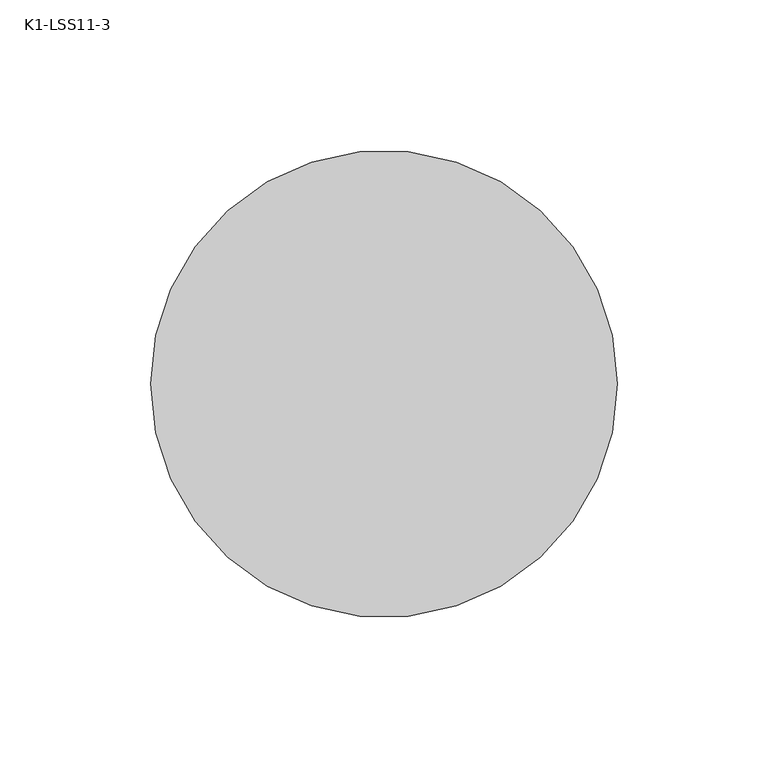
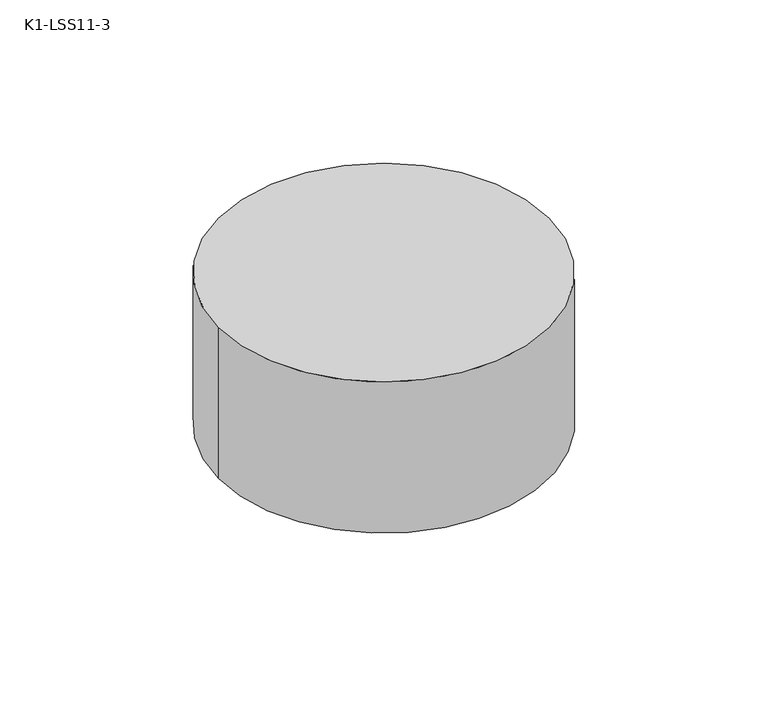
"""IFC4 building model written with IfcOpenShell, lengths in millimetres: light fixture geometry, 20501_K1-SS11_非常用照明器具_直付形 : K1-LSS11-3."""

import ifcopenshell
import ifcopenshell.guid

model = None  # the IFC model being written
_history = None  # IfcOwnerHistory: only IFC2X3 demands one
_inside = {}  # id of a spatial element -> (the spatial element, [elements in it])
_under = {}  # id of a project, library or spatial element -> (it, [spatial elements below it])
_declared = {}  # id of a project -> (the project, [libraries it declares])
_typed = {}  # id of a type object -> (the type object, [elements of that type])
_made_of = {}  # id of a material, layer set ... -> (it, [elements and type objects made of it])


def new_model(schema):
    """Start an empty IFC model of exactly this schema.

    Asked for "IFC4X3", IfcOpenShell would pick the latest addendum, in which some entities
    have other attributes; the version numbers below select the first issue.
    IFC2X3 requires an IfcOwnerHistory on every rooted entity: one is made here for all.
    """
    global model, _history
    if schema == "IFC4X3":
        model = ifcopenshell.file(schema_version=(4, 3, 0, 0))
    else:
        model = ifcopenshell.file(schema=schema)
    _inside.clear()
    _under.clear()
    _declared.clear()
    _typed.clear()
    _made_of.clear()
    _history = None
    if model.schema == "IFC2X3":
        org = make("IfcOrganization", Name="unknown")
        user = make(
            "IfcPersonAndOrganization",
            ThePerson=make("IfcPerson", FamilyName="unknown"),
            TheOrganization=org,
        )
        app = make(
            "IfcApplication",
            ApplicationDeveloper=org,
            Version="unknown",
            ApplicationFullName="unknown",
            ApplicationIdentifier="unknown",
        )
        _history = make(
            "IfcOwnerHistory",
            OwningUser=user,
            OwningApplication=app,
            ChangeAction="ADDED",
            CreationDate=0,
        )
    return model


def make(cls, **values):
    """One entity of the class cls with the attributes given. An attribute that is None is left unset."""
    return model.create_entity(
        cls, **{name: value for name, value in values.items() if value is not None}
    )


def rooted(cls, **values):
    """An entity with a GlobalId (a new one), such as an element, a storey or a relation."""
    return make(cls, GlobalId=ifcopenshell.guid.new(), OwnerHistory=_history, **values)


def si_unit(unit_type, name, prefix=None):
    """IfcSIUnit, for example si_unit("LENGTHUNIT", "METRE", prefix="MILLI")."""
    return make("IfcSIUnit", UnitType=unit_type, Prefix=prefix, Name=name)


def assignment(units):
    """IfcUnitAssignment: the units of a project."""
    return None if units is None else make("IfcUnitAssignment", Units=units)


def point(xyz):
    """IfcCartesianPoint."""
    return None if xyz is None else make("IfcCartesianPoint", Coordinates=xyz)


def direction(xyz):
    """IfcDirection."""
    return None if xyz is None else make("IfcDirection", DirectionRatios=xyz)


def frame(location, z_axis=None, x_axis=None):
    """IfcAxis2Placement3D, a coordinate frame: its origin and axes. An axis left out is left unset."""
    return make(
        "IfcAxis2Placement3D",
        Location=point(location),
        Axis=direction(z_axis),
        RefDirection=direction(x_axis),
    )


def frame_2d(location, x_axis=None):
    """IfcAxis2Placement2D, a coordinate frame in the plane: its origin and x axis."""
    return make(
        "IfcAxis2Placement2D", Location=point(location), RefDirection=direction(x_axis)
    )


def origin():
    """The frame at (0, 0, 0) with its axes left unset."""
    return frame((0.0, 0.0, 0.0))


def origin_with_axes():
    """The frame at (0, 0, 0) with the z axis (0, 0, 1) and the x axis (1, 0, 0) written out."""
    return frame((0.0, 0.0, 0.0), z_axis=(0.0, 0.0, 1.0), x_axis=(1.0, 0.0, 0.0))


def origin_2d():
    """The frame at (0, 0) in the plane with its x axis left unset."""
    return frame_2d((0.0, 0.0))


def place(relative_to, where):
    """IfcLocalPlacement: puts the frame where relative to a parent placement (None: the world)."""
    return make(
        "IfcLocalPlacement", PlacementRelTo=relative_to, RelativePlacement=where
    )


def context(
    kind, dimensions, precision=None, world=None, true_north=None, identifier=None
):
    """IfcGeometricRepresentationContext, for example the 3D "Model" context."""
    return make(
        "IfcGeometricRepresentationContext",
        ContextIdentifier=identifier,
        ContextType=kind,
        CoordinateSpaceDimension=dimensions,
        Precision=precision,
        WorldCoordinateSystem=world,
        TrueNorth=true_north,
    )


def project(units=None, contexts=None):
    """IfcProject with its units and contexts."""
    return rooted(
        "IfcProject",
        Name="project",
        RepresentationContexts=contexts,
        UnitsInContext=assignment(units),
    )


def spatial(cls, under=None, at=None, **own):
    """A site, building, storey or space (cls), placed at a placement, below another one or the project."""
    s = rooted(cls, ObjectPlacement=at, **own)
    if under is not None:
        _under.setdefault(under.id(), (under, []))[1].append(s)
    return s


def circle_curve(where, radius):
    """IfcCircle in the frame where."""
    return make("IfcCircle", Position=where, Radius=radius)


def ellipse_curve(where, semi_axis1, semi_axis2):
    """IfcEllipse in the frame where."""
    return make(
        "IfcEllipse", Position=where, SemiAxis1=semi_axis1, SemiAxis2=semi_axis2
    )


def trimmed(basis, trim1, trim2, sense, master):
    """IfcTrimmedCurve: the piece of a basis curve between two trims."""
    return make(
        "IfcTrimmedCurve",
        BasisCurve=basis,
        Trim1=trim1,
        Trim2=trim2,
        SenseAgreement=sense,
        MasterRepresentation=master,
    )


def segment(curve, same_sense, transition):
    """IfcCompositeCurveSegment."""
    return make(
        "IfcCompositeCurveSegment",
        Transition=transition,
        SameSense=same_sense,
        ParentCurve=curve,
    )


def composite_curve(segments, self_intersect=None):
    """IfcCompositeCurve: segments joined end to end."""
    return make("IfcCompositeCurve", Segments=segments, SelfIntersect=self_intersect)


def outline(outer, holes=None, kind="AREA"):
    """IfcArbitraryClosedProfileDef: a profile drawn as a closed curve; with holes, ...WithVoids."""
    if holes is None:
        return make("IfcArbitraryClosedProfileDef", ProfileType=kind, OuterCurve=outer)
    return make(
        "IfcArbitraryProfileDefWithVoids",
        ProfileType=kind,
        OuterCurve=outer,
        InnerCurves=holes,
    )


def extrude(swept, where, along, depth):
    """IfcExtrudedAreaSolid: the profile swept, set in the frame where, extruded along a direction by depth."""
    return make(
        "IfcExtrudedAreaSolid",
        SweptArea=swept,
        Position=where,
        ExtrudedDirection=direction(along),
        Depth=depth,
    )


def shape(context_of_items, identifier, shape_type, items):
    """IfcShapeRepresentation: the items that make up one representation, for example the "Body"."""
    return make(
        "IfcShapeRepresentation",
        ContextOfItems=context_of_items,
        RepresentationIdentifier=identifier,
        RepresentationType=shape_type,
        Items=items,
    )


def source(mapping_origin, context_of_items, identifier, shape_type, items):
    """IfcRepresentationMap: a shape defined once, which mapped items show again and again."""
    return make(
        "IfcRepresentationMap",
        MappingOrigin=mapping_origin,
        MappedRepresentation=shape(context_of_items, identifier, shape_type, items),
    )


def transform(
    local_origin,
    x_axis=None,
    y_axis=None,
    z_axis=None,
    scale=None,
    scale2=None,
    scale3=None,
    uniform=True,
):
    """IfcCartesianTransformationOperator3D, or its non-uniform kind. x_axis, y_axis, z_axis: its Axis1, 2, 3."""
    if uniform:
        return make(
            "IfcCartesianTransformationOperator3D",
            Axis1=direction(x_axis),
            Axis2=direction(y_axis),
            LocalOrigin=point(local_origin),
            Scale=scale,
            Axis3=direction(z_axis),
        )
    return make(
        "IfcCartesianTransformationOperator3DnonUniform",
        Axis1=direction(x_axis),
        Axis2=direction(y_axis),
        LocalOrigin=point(local_origin),
        Scale=scale,
        Axis3=direction(z_axis),
        Scale2=scale2,
        Scale3=scale3,
    )


def mapped(mapping_source, mapping_target):
    """IfcMappedItem: shows the shape of a source again, moved by a transform."""
    return make(
        "IfcMappedItem", MappingSource=mapping_source, MappingTarget=mapping_target
    )


def made_of(thing, what):
    """Note that an element or type object is made of a material, layer set ...; save() writes the relation."""
    if what is not None:
        _made_of.setdefault(what.id(), (what, []))[1].append(thing)
    return thing


def element(
    cls,
    number,
    at=None,
    inside=None,
    cuts=None,
    type_object=None,
    material=None,
    context=None,
    identifier="Body",
    shape_type=None,
    held_by="IfcProductDefinitionShape",
    body=None,
    shapes=None,
    **own,
):
    """One element of the class cls, such as IfcWall. Its Tag is "e" and its number.

    at: its placement. inside: the storey or other place that contains it. cuts: it is an
    opening in that element (IfcRelVoidsElement). A single representation is given by context,
    identifier, shape_type and body (its items); several are given by shapes. held_by: the class
    of the entity that holds the representations. save() writes the other relations.
    """
    e = rooted(cls, Tag="e%d" % number, ObjectPlacement=at, **own)
    if body is not None:
        shapes = [shape(context, identifier, shape_type, body)]
    if shapes is not None:
        e.Representation = make(held_by, Representations=shapes)
    if inside is not None:
        _inside.setdefault(inside.id(), (inside, []))[1].append(e)
    if cuts is not None:
        rooted(
            "IfcRelVoidsElement", RelatingBuildingElement=cuts, RelatedOpeningElement=e
        )
    if type_object is not None:
        _typed.setdefault(type_object.id(), (type_object, []))[1].append(e)
    return made_of(e, material)


def aggregate(whole, parts):
    """IfcRelAggregates: a whole, such as a stair, and the parts it consists of."""
    return rooted("IfcRelAggregates", RelatingObject=whole, RelatedObjects=parts)


def save(model, path):
    """Write the relations noted so far, then the file.

    IfcRelAggregates (storeys below a building ...), IfcRelContainedInSpatialStructure (elements
    in a storey), IfcRelDefinesByType, IfcRelAssociatesMaterial and IfcRelDeclares: one each for
    every whole, place, type object, material and project.
    """
    for whole, parts in _under.values():
        aggregate(whole, parts)
    for where, things in _inside.values():
        rooted(
            "IfcRelContainedInSpatialStructure",
            RelatedElements=things,
            RelatingStructure=where,
        )
    for kind, things in _typed.values():
        rooted("IfcRelDefinesByType", RelatedObjects=things, RelatingType=kind)
    for what, things in _made_of.values():
        rooted("IfcRelAssociatesMaterial", RelatedObjects=things, RelatingMaterial=what)
    for by, libraries in _declared.values():
        rooted("IfcRelDeclares", RelatingContext=by, RelatedDefinitions=libraries)
    model.write(path)


def plane_surface(at):
    """IfcPlane: the flat surface through the origin of the frame at, square to its z axis."""
    return make("IfcPlane", Position=at)


def revolved_surface(curve, axis_point, axis_direction):
    """IfcSurfaceOfRevolution: the curve turned about the line through axis_point along axis_direction."""
    return make(
        "IfcSurfaceOfRevolution",
        SweptCurve=make("IfcArbitraryOpenProfileDef", ProfileType="CURVE", Curve=curve),
        AxisPosition=make("IfcAxis1Placement", Location=point(axis_point), Axis=direction(axis_direction)),
    )


def advanced_brep(points, edges, surfaces, faces):
    """IfcAdvancedBrep: a solid bounded by faces that lie on surfaces and meet in shared edges.

    An edge is (start, end): straight between two places in points (the first is 0);
    or (start, end, curve); or (start, end, curve, False) where it runs against its curve.
    A face is (place in surfaces, loops), or (place, loops, False) where it looks against
    its surface's normal. A loop lists edges by number (the first is 1), with a minus sign
    where the edge is run from its end to its start. The first loop is the outer one.
    """
    corners = [point(p) for p in points]
    vertices = [make("IfcVertexPoint", VertexGeometry=c) for c in corners]
    made = []
    for start, end, *more in edges:
        made.append(
            make(
                "IfcEdgeCurve",
                EdgeStart=vertices[start],
                EdgeEnd=vertices[end],
                EdgeGeometry=more[0] if more else make("IfcPolyline", Points=[corners[start], corners[end]]),
                SameSense=more[1] if len(more) > 1 else True,
            )
        )
    hull = []
    for where, loops, *sense in faces:
        bounds = []
        for j, loop in enumerate(loops):
            ring = [make("IfcOrientedEdge", EdgeElement=made[abs(k) - 1], Orientation=k > 0) for k in loop]
            bounds.append(
                make(
                    "IfcFaceOuterBound" if j == 0 else "IfcFaceBound",
                    Bound=make("IfcEdgeLoop", EdgeList=ring),
                    Orientation=True,
                )
            )
        hull.append(make("IfcAdvancedFace", Bounds=bounds, FaceSurface=surfaces[where], SameSense=sense[0] if sense else True))
    return make("IfcAdvancedBrep", Outer=make("IfcClosedShell", CfsFaces=hull))


def k1_lss11_3_490f6a96(model_context):
    return source(origin(), model_context, "Body", "SolidModel", [
        advanced_brep(
        [(14.9452637, 0.0, 0.0), (-14.9452637, 0.0, 0.0), (0.0, 0.0, 0.0), (0.0, 0.0, -10.9757839)],
        [
            (0, 1, circle_curve(frame((0.0, 0.0, 0.0), z_axis=(0.0, 0.0, 1.0), x_axis=(-1.0, 0.0, 0.0)), 14.9452637)),
            (1, 2),
            (2, 0),
            (1, 0, circle_curve(frame((0.0, 0.0, 0.0), z_axis=(0.0, 0.0, 1.0), x_axis=(-1.0, 0.0, 0.0)), 14.9452637)),
            (3, 1, ellipse_curve(frame((0.0, 0.0, 1.0242161), z_axis=(0.0, 1.0, 0.0), x_axis=(-1.0, 0.0, 0.0)), 15.0, 12.0)),
            (0, 3, ellipse_curve(frame((0.0, 0.0, 1.0242161), z_axis=(0.0, 1.0, 0.0), x_axis=(1.0, 0.0, 0.0)), 15.0, 12.0)),
        ],
        [
            plane_surface(frame((0.0, 0.0, 0.0), z_axis=(0.0, 0.0, 1.0), x_axis=(-1.0, 0.0, 0.0))),
            revolved_surface(trimmed(ellipse_curve(frame((0.0, 0.0, 1.0242161), z_axis=(0.0, -1.0, 0.0), x_axis=(-1.0, 0.0, 0.0)), 15.0, 12.0), [point((-14.9452637, 0.0, 0.0))], [point((0.0, 0.0, -10.9757839))], True, "CARTESIAN"), (0.0, 0.0, 40.0), (0.0, 0.0, -1.0)),
        ],
        [
            (0, [[1, 2, 3]]),
            (0, [[4, -3, -2]]),
            (1, [[5, -1, 6]]),
            (1, [[-6, -4, -5]]),
        ],
    ),
        extrude(outline(composite_curve([segment(trimmed(circle_curve(origin_2d(), 77.5), [point((-77.5, 0.0))], [point((77.5, 0.0))], False, "CARTESIAN"), True, "CONTINUOUS"), segment(trimmed(circle_curve(origin_2d(), 77.5), [point((77.5, 0.0))], [point((-77.5, 0.0))], False, "CARTESIAN"), True, "CONTINUOUS")], self_intersect=False)), origin_with_axes(), (0.0, 0.0, 1.0), 75.0),
    ])


if __name__ == "__main__":
    model = new_model("IFC4")
    model_context = context("Model", 3, world=origin())
    ifc_project = project(units=[si_unit("LENGTHUNIT", "METRE", prefix="MILLI")], contexts=[model_context])
    site = spatial("IfcSite", under=ifc_project)
    building = spatial("IfcBuilding", under=site)
    placement = place(None, origin())
    k1_lss11_3_shape = k1_lss11_3_490f6a96(model_context)
    element("IfcLightFixture", 1, ObjectType="20501_K1-SS11_非常用照明器具_直付形 : K1-LSS11-3", at=placement, inside=building, context=model_context, shape_type="MappedRepresentation", body=[
        mapped(k1_lss11_3_shape, transform((0.0, 0.0, 0.0), x_axis=(1.0, 0.0, 0.0), y_axis=(0.0, 1.0, 0.0), z_axis=(0.0, 0.0, 1.0))),
    ])
    save(model, "model.ifc")
